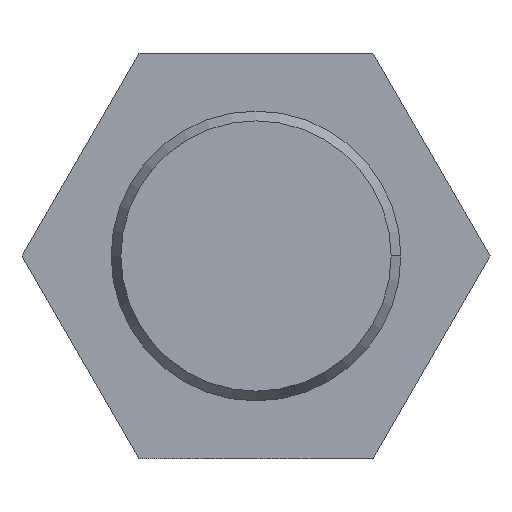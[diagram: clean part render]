
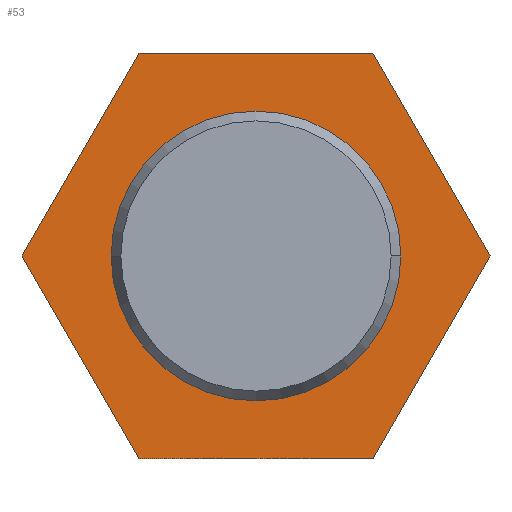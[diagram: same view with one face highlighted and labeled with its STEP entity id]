
A CAD part, left-side view. The second image highlights one B-rep face of the part: STEP entity #53.
In plain terms, the highlighted planar face has unit normal (-1, 0, 0).
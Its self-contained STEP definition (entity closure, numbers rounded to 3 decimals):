
#20 = CARTESIAN_POINT ( 'NONE',  ( 28., 6.928, 12. ) ) ;
#43 = VERTEX_POINT ( 'NONE', #219 ) ;
#53 = ADVANCED_FACE ( 'NONE', ( #251, #705 ), #260, .F. ) ;
#54 = VERTEX_POINT ( 'NONE', #314 ) ;
#56 = VECTOR ( 'NONE', #634, 1000. ) ;
#62 = ORIENTED_EDGE ( 'NONE', *, *, #261, .F. ) ;
#80 = CARTESIAN_POINT ( 'NONE',  ( 28., -13.856, 0. ) ) ;
#83 = DIRECTION ( 'NONE',  ( 0., -0.5, -0.866 ) ) ;
#89 = AXIS2_PLACEMENT_3D ( 'NONE', #274, #318, #323 ) ;
#95 = VECTOR ( 'NONE', #228, 1000. ) ;
#96 = DIRECTION ( 'NONE',  ( 0., 0.5, -0.866 ) ) ;
#132 = VERTEX_POINT ( 'NONE', #595 ) ;
#143 = EDGE_LOOP ( 'NONE', ( #707, #608 ) ) ;
#168 = ORIENTED_EDGE ( 'NONE', *, *, #464, .F. ) ;
#176 = CARTESIAN_POINT ( 'NONE',  ( 28., 13.856, 0. ) ) ;
#180 = VERTEX_POINT ( 'NONE', #466 ) ;
#202 = CARTESIAN_POINT ( 'NONE',  ( 28., 6.928, 12. ) ) ;
#219 = CARTESIAN_POINT ( 'NONE',  ( 28., 6.928, -12. ) ) ;
#221 = ORIENTED_EDGE ( 'NONE', *, *, #279, .F. ) ;
#227 = VERTEX_POINT ( 'NONE', #535 ) ;
#228 = DIRECTION ( 'NONE',  ( 0., 0.5, 0.866 ) ) ;
#234 = VERTEX_POINT ( 'NONE', #582 ) ;
#239 = LINE ( 'NONE', #80, #671 ) ;
#249 = LINE ( 'NONE', #693, #95 ) ;
#251 = FACE_BOUND ( 'NONE', #143, .T. ) ;
#260 = PLANE ( 'NONE',  #89 ) ;
#261 = EDGE_CURVE ( 'NONE', #54, #180, #239, .T. ) ;
#274 = CARTESIAN_POINT ( 'NONE',  ( 28., 0., 0. ) ) ;
#279 = EDGE_CURVE ( 'NONE', #132, #54, #656, .T. ) ;
#314 = CARTESIAN_POINT ( 'NONE',  ( 28., -13.856, 0. ) ) ;
#318 = DIRECTION ( 'NONE',  ( 1., 0., 0. ) ) ;
#323 = DIRECTION ( 'NONE',  ( 0., 0., -1. ) ) ;
#331 = VECTOR ( 'NONE', #451, 1000. ) ;
#351 = VECTOR ( 'NONE', #83, 1000. ) ;
#359 = LINE ( 'NONE', #571, #56 ) ;
#372 = EDGE_CURVE ( 'NONE', #227, #234, #460, .T. ) ;
#381 = LINE ( 'NONE', #575, #394 ) ;
#394 = VECTOR ( 'NONE', #631, 1000. ) ;
#405 = VERTEX_POINT ( 'NONE', #20 ) ;
#406 = CARTESIAN_POINT ( 'NONE',  ( 28., 0., 0. ) ) ;
#408 = CARTESIAN_POINT ( 'NONE',  ( 28., 0., 0. ) ) ;
#411 = AXIS2_PLACEMENT_3D ( 'NONE', #406, #456, #555 ) ;
#439 = AXIS2_PLACEMENT_3D ( 'NONE', #408, #458, #461 ) ;
#451 = DIRECTION ( 'NONE',  ( 0., -1., 0. ) ) ;
#456 = DIRECTION ( 'NONE',  ( 1., 0., 0. ) ) ;
#458 = DIRECTION ( 'NONE',  ( 1., 0., 0. ) ) ;
#460 = CIRCLE ( 'NONE', #411, 8.577 ) ;
#461 = DIRECTION ( 'NONE',  ( 0., 1., 0. ) ) ;
#464 = EDGE_CURVE ( 'NONE', #43, #715, #249, .T. ) ;
#466 = CARTESIAN_POINT ( 'NONE',  ( 28., -6.928, -12. ) ) ;
#475 = ORIENTED_EDGE ( 'NONE', *, *, #514, .F. ) ;
#498 = CIRCLE ( 'NONE', #439, 8.577 ) ;
#499 = EDGE_CURVE ( 'NONE', #715, #405, #381, .T. ) ;
#514 = EDGE_CURVE ( 'NONE', #180, #43, #359, .T. ) ;
#525 = ORIENTED_EDGE ( 'NONE', *, *, #499, .F. ) ;
#535 = CARTESIAN_POINT ( 'NONE',  ( 28., 8.577, 0. ) ) ;
#555 = DIRECTION ( 'NONE',  ( 0., 1., 0. ) ) ;
#571 = CARTESIAN_POINT ( 'NONE',  ( 28., -6.928, -12. ) ) ;
#575 = CARTESIAN_POINT ( 'NONE',  ( 28., 13.856, 0. ) ) ;
#576 = EDGE_CURVE ( 'NONE', #234, #227, #498, .T. ) ;
#582 = CARTESIAN_POINT ( 'NONE',  ( 28., -8.577, 0. ) ) ;
#595 = CARTESIAN_POINT ( 'NONE',  ( 28., -6.928, 12. ) ) ;
#608 = ORIENTED_EDGE ( 'NONE', *, *, #576, .T. ) ;
#612 = EDGE_CURVE ( 'NONE', #405, #132, #659, .T. ) ;
#614 = CARTESIAN_POINT ( 'NONE',  ( 28., -6.928, 12. ) ) ;
#619 = ORIENTED_EDGE ( 'NONE', *, *, #612, .F. ) ;
#631 = DIRECTION ( 'NONE',  ( 0., -0.5, 0.866 ) ) ;
#634 = DIRECTION ( 'NONE',  ( 0., 1., 0. ) ) ;
#640 = EDGE_LOOP ( 'NONE', ( #168, #475, #62, #221, #619, #525 ) ) ;
#656 = LINE ( 'NONE', #614, #351 ) ;
#659 = LINE ( 'NONE', #202, #331 ) ;
#671 = VECTOR ( 'NONE', #96, 1000. ) ;
#693 = CARTESIAN_POINT ( 'NONE',  ( 28., 6.928, -12. ) ) ;
#705 = FACE_OUTER_BOUND ( 'NONE', #640, .T. ) ;
#707 = ORIENTED_EDGE ( 'NONE', *, *, #372, .T. ) ;
#715 = VERTEX_POINT ( 'NONE', #176 ) ;
